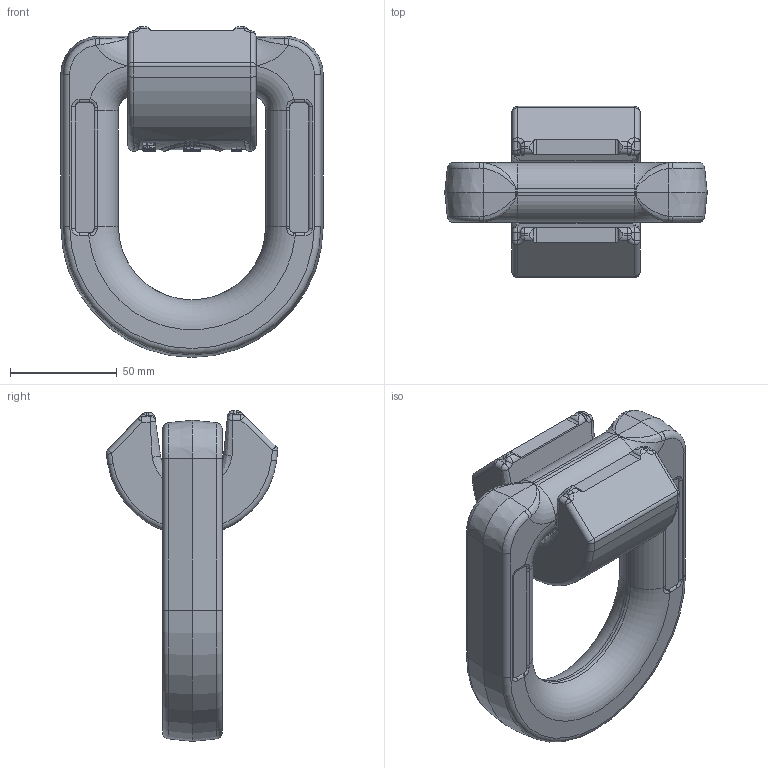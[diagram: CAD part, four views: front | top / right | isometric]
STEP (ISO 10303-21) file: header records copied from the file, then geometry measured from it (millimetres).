
FILE_DESCRIPTION (( 'STEP AP214' ), '1' );
FILE_NAME ('TWLP1000.STEP', '2024-02-12T20:40:31', ( '' ), ( '' ), 'SwSTEP 2.0', 'SolidWorks 2018', '' );
FILE_SCHEMA (( 'AUTOMOTIVE_DESIGN' ));
Length unit declared in the file: inch
Products named in the file (3): TWLP1000_02; TWLP1000; TWLP1000_01
Assembly tree (2 placements, depth 2):
  TWLP1000
    TWLP1000_02
    TWLP1000_01
Bounding box: 123 x 80.29 x 155.05 mm (x, y, z)
Volume: 416426.7 mm3; surface area: 63590.6 mm2
Topology: 14 solids, 14 shells, 926 faces, 2283 edges, 1401 vertices
Faces by surface type: plane 310, cylinder 255, bspline 249, torus 82, cone 16, sphere 14
Entity records: 133271 total; most frequent: CARTESIAN_POINT 113799, ORIENTED_EDGE 4552, DIRECTION 3075, EDGE_CURVE 2276, VERTEX_POINT 1400, VECTOR 1049, LINE 1049, AXIS2_PLACEMENT_3D 1013
